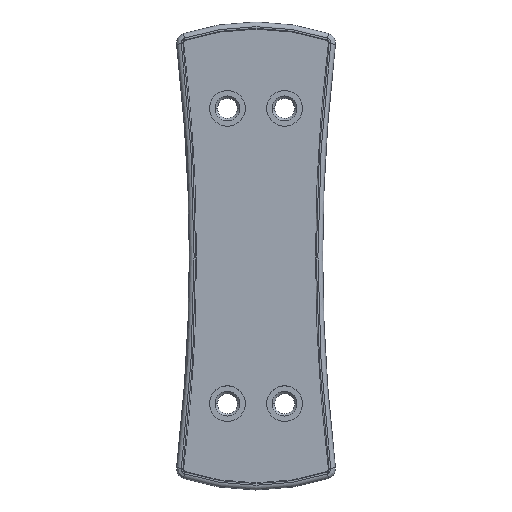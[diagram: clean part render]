
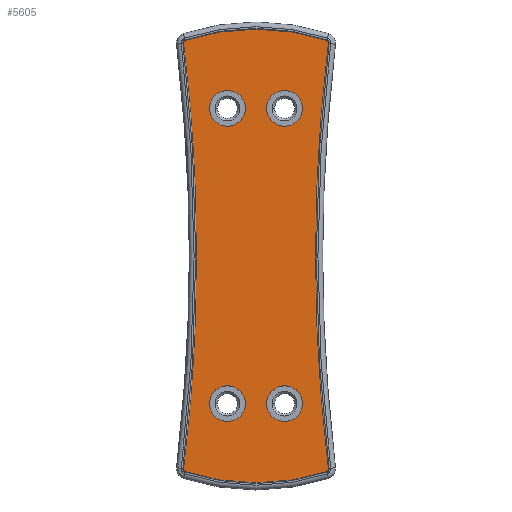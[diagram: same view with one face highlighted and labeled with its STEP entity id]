
A CAD part, top view. The second image highlights one B-rep face of the part: STEP entity #5605.
In plain terms, the highlighted planar face has unit normal (0, 0, 1).
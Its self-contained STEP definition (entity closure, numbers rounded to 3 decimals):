
#1633=CARTESIAN_POINT('',(0.,0.,97.5));
#1634=DIRECTION('',(0.,0.,-1.));
#1635=DIRECTION('',(0.312,-0.95,0.));
#1636=AXIS2_PLACEMENT_3D('',#1633,#1634,#1635);
#1638=CARTESIAN_POINT('',(-14.837,-45.253,97.5));
#1639=CARTESIAN_POINT('',(-14.86,-45.245,97.5));
#1640=CARTESIAN_POINT('',(-14.922,-45.219,97.5));
#1641=CARTESIAN_POINT('',(-15.017,-45.149,97.5));
#1642=CARTESIAN_POINT('',(-15.11,-45.027,97.5));
#1643=CARTESIAN_POINT('',(-15.174,-44.87,97.5));
#1644=CARTESIAN_POINT('',(-15.192,-44.723,97.5));
#1645=CARTESIAN_POINT('',(-15.186,-44.635,97.5));
#1646=CARTESIAN_POINT('',(-15.183,-44.607,97.5));
#1648=CARTESIAN_POINT('',(-384.682,0.,97.5));
#1649=DIRECTION('',(0.,0.,1.));
#1650=DIRECTION('',(0.993,-0.12,0.));
#1651=AXIS2_PLACEMENT_3D('',#1648,#1649,#1650);
#1653=CARTESIAN_POINT('',(-384.682,0.,97.5));
#1654=DIRECTION('',(0.,0.,1.));
#1655=DIRECTION('',(1.,0.,0.));
#1656=AXIS2_PLACEMENT_3D('',#1653,#1654,#1655);
#1658=CARTESIAN_POINT('',(-15.183,44.607,97.5));
#1659=CARTESIAN_POINT('',(-15.186,44.635,97.5));
#1660=CARTESIAN_POINT('',(-15.192,44.723,97.5));
#1661=CARTESIAN_POINT('',(-15.174,44.87,97.5));
#1662=CARTESIAN_POINT('',(-15.11,45.027,97.5));
#1663=CARTESIAN_POINT('',(-15.017,45.149,97.5));
#1664=CARTESIAN_POINT('',(-14.922,45.219,97.5));
#1665=CARTESIAN_POINT('',(-14.86,45.245,97.5));
#1666=CARTESIAN_POINT('',(-14.837,45.253,97.5));
#1668=CARTESIAN_POINT('',(0.,0.,97.5));
#1669=DIRECTION('',(0.,0.,-1.));
#1670=DIRECTION('',(-0.312,0.95,0.));
#1671=AXIS2_PLACEMENT_3D('',#1668,#1669,#1670);
#1673=CARTESIAN_POINT('',(14.837,45.253,97.5));
#1674=CARTESIAN_POINT('',(14.86,45.245,97.5));
#1675=CARTESIAN_POINT('',(14.922,45.219,97.5));
#1676=CARTESIAN_POINT('',(15.017,45.149,97.5));
#1677=CARTESIAN_POINT('',(15.11,45.027,97.5));
#1678=CARTESIAN_POINT('',(15.174,44.87,97.5));
#1679=CARTESIAN_POINT('',(15.192,44.723,97.5));
#1680=CARTESIAN_POINT('',(15.186,44.635,97.5));
#1681=CARTESIAN_POINT('',(15.183,44.607,97.5));
#1683=CARTESIAN_POINT('',(384.682,0.,97.5));
#1684=DIRECTION('',(0.,0.,1.));
#1685=DIRECTION('',(-0.993,0.12,0.));
#1686=AXIS2_PLACEMENT_3D('',#1683,#1684,#1685);
#1688=CARTESIAN_POINT('',(384.682,0.,97.5));
#1689=DIRECTION('',(0.,0.,1.));
#1690=DIRECTION('',(-1.,0.,0.));
#1691=AXIS2_PLACEMENT_3D('',#1688,#1689,#1690);
#1693=CARTESIAN_POINT('',(15.183,-44.607,97.5));
#1694=CARTESIAN_POINT('',(15.186,-44.635,97.5));
#1695=CARTESIAN_POINT('',(15.192,-44.723,97.5));
#1696=CARTESIAN_POINT('',(15.174,-44.87,97.5));
#1697=CARTESIAN_POINT('',(15.11,-45.027,97.5));
#1698=CARTESIAN_POINT('',(15.017,-45.149,97.5));
#1699=CARTESIAN_POINT('',(14.922,-45.219,97.5));
#1700=CARTESIAN_POINT('',(14.86,-45.245,97.5));
#1701=CARTESIAN_POINT('',(14.837,-45.253,97.5));
#1703=CARTESIAN_POINT('',(-6.,31.,97.5));
#1704=DIRECTION('',(0.,0.,1.));
#1705=DIRECTION('',(1.,0.,0.));
#1706=AXIS2_PLACEMENT_3D('',#1703,#1704,#1705);
#1708=CARTESIAN_POINT('',(-6.,31.,97.5));
#1709=DIRECTION('',(0.,0.,1.));
#1710=DIRECTION('',(-1.,0.,0.));
#1711=AXIS2_PLACEMENT_3D('',#1708,#1709,#1710);
#1713=CARTESIAN_POINT('',(6.,31.,97.5));
#1714=DIRECTION('',(0.,0.,1.));
#1715=DIRECTION('',(1.,0.,0.));
#1716=AXIS2_PLACEMENT_3D('',#1713,#1714,#1715);
#1718=CARTESIAN_POINT('',(6.,31.,97.5));
#1719=DIRECTION('',(0.,0.,1.));
#1720=DIRECTION('',(-1.,0.,0.));
#1721=AXIS2_PLACEMENT_3D('',#1718,#1719,#1720);
#1723=CARTESIAN_POINT('',(6.,-31.,97.5));
#1724=DIRECTION('',(0.,0.,1.));
#1725=DIRECTION('',(1.,0.,0.));
#1726=AXIS2_PLACEMENT_3D('',#1723,#1724,#1725);
#1728=CARTESIAN_POINT('',(6.,-31.,97.5));
#1729=DIRECTION('',(0.,0.,1.));
#1730=DIRECTION('',(-1.,0.,0.));
#1731=AXIS2_PLACEMENT_3D('',#1728,#1729,#1730);
#1733=CARTESIAN_POINT('',(-6.,-31.,97.5));
#1734=DIRECTION('',(0.,0.,1.));
#1735=DIRECTION('',(1.,0.,0.));
#1736=AXIS2_PLACEMENT_3D('',#1733,#1734,#1735);
#1738=CARTESIAN_POINT('',(-6.,-31.,97.5));
#1739=DIRECTION('',(0.,0.,1.));
#1740=DIRECTION('',(-1.,0.,0.));
#1741=AXIS2_PLACEMENT_3D('',#1738,#1739,#1740);
#2339=CARTESIAN_POINT('',(9.75,31.,97.5));
#2340=CARTESIAN_POINT('',(2.25,31.,97.5));
#2341=VERTEX_POINT('',#2339);
#2342=VERTEX_POINT('',#2340);
#2343=CARTESIAN_POINT('',(14.837,-45.253,97.5));
#2344=CARTESIAN_POINT('',(-14.837,-45.253,97.5));
#2345=VERTEX_POINT('',#2343);
#2346=VERTEX_POINT('',#2344);
#2347=VERTEX_POINT('',#1646);
#2348=CARTESIAN_POINT('',(-12.5,0.,97.5));
#2349=VERTEX_POINT('',#2348);
#2350=CARTESIAN_POINT('',(-15.183,44.607,97.5));
#2351=VERTEX_POINT('',#2350);
#2352=VERTEX_POINT('',#1666);
#2353=CARTESIAN_POINT('',(14.837,45.253,97.5));
#2354=VERTEX_POINT('',#2353);
#2355=VERTEX_POINT('',#1681);
#2356=CARTESIAN_POINT('',(12.5,0.,97.5));
#2357=VERTEX_POINT('',#2356);
#2358=CARTESIAN_POINT('',(15.183,-44.607,97.5));
#2359=VERTEX_POINT('',#2358);
#2360=CARTESIAN_POINT('',(-2.25,31.,97.5));
#2361=CARTESIAN_POINT('',(-9.75,31.,97.5));
#2362=VERTEX_POINT('',#2360);
#2363=VERTEX_POINT('',#2361);
#2364=CARTESIAN_POINT('',(9.75,-31.,97.5));
#2365=CARTESIAN_POINT('',(2.25,-31.,97.5));
#2366=VERTEX_POINT('',#2364);
#2367=VERTEX_POINT('',#2365);
#2368=CARTESIAN_POINT('',(-2.25,-31.,97.5));
#2369=CARTESIAN_POINT('',(-9.75,-31.,97.5));
#2370=VERTEX_POINT('',#2368);
#2371=VERTEX_POINT('',#2369);
#5555=CARTESIAN_POINT('',(0.,0.,97.5));
#5556=DIRECTION('',(0.,0.,1.));
#5557=DIRECTION('',(1.,0.,0.));
#5558=AXIS2_PLACEMENT_3D('',#5555,#5556,#5557);
#5559=PLANE('',#5558);
#5561=ORIENTED_EDGE('',*,*,#5560,.T.);
#5563=ORIENTED_EDGE('',*,*,#5562,.T.);
#5565=ORIENTED_EDGE('',*,*,#5564,.T.);
#5567=ORIENTED_EDGE('',*,*,#5566,.T.);
#5569=ORIENTED_EDGE('',*,*,#5568,.T.);
#5571=ORIENTED_EDGE('',*,*,#5570,.T.);
#5573=ORIENTED_EDGE('',*,*,#5572,.T.);
#5575=ORIENTED_EDGE('',*,*,#5574,.T.);
#5577=ORIENTED_EDGE('',*,*,#5576,.T.);
#5579=ORIENTED_EDGE('',*,*,#5578,.T.);
#5580=EDGE_LOOP('',(#5561,#5563,#5565,#5567,#5569,#5571,#5573,#5575,#5577,
#5579));
#5581=FACE_OUTER_BOUND('',#5580,.F.);
#5583=ORIENTED_EDGE('',*,*,#5582,.T.);
#5585=ORIENTED_EDGE('',*,*,#5584,.T.);
#5586=EDGE_LOOP('',(#5583,#5585));
#5587=FACE_BOUND('',#5586,.F.);
#5588=ORIENTED_EDGE('',*,*,#5545,.T.);
#5590=ORIENTED_EDGE('',*,*,#5589,.T.);
#5591=EDGE_LOOP('',(#5588,#5590));
#5592=FACE_BOUND('',#5591,.F.);
#5594=ORIENTED_EDGE('',*,*,#5593,.T.);
#5596=ORIENTED_EDGE('',*,*,#5595,.T.);
#5597=EDGE_LOOP('',(#5594,#5596));
#5598=FACE_BOUND('',#5597,.F.);
#5600=ORIENTED_EDGE('',*,*,#5599,.T.);
#5602=ORIENTED_EDGE('',*,*,#5601,.T.);
#5603=EDGE_LOOP('',(#5600,#5602));
#5604=FACE_BOUND('',#5603,.F.);
#5605=ADVANCED_FACE('',(#5581,#5587,#5592,#5598,#5604),#5559,.T.);
#1637=CIRCLE('',#1636,47.623);
#1647=B_SPLINE_CURVE_WITH_KNOTS('',3,(#1638,#1639,#1640,#1641,#1642,#1643,#1644,
#1645,#1646),.UNSPECIFIED.,.F.,.F.,(4,1,1,1,1,1,4),(0.,0.111,
0.304,0.501,0.702,0.907,1.),
.UNSPECIFIED.);
#1652=CIRCLE('',#1651,372.182);
#1657=CIRCLE('',#1656,372.182);
#1667=B_SPLINE_CURVE_WITH_KNOTS('',3,(#1658,#1659,#1660,#1661,#1662,#1663,#1664,
#1665,#1666),.UNSPECIFIED.,.F.,.F.,(4,1,1,1,1,1,4),(0.,0.093,
0.298,0.499,0.696,0.889,1.),
.UNSPECIFIED.);
#1672=CIRCLE('',#1671,47.623);
#1682=B_SPLINE_CURVE_WITH_KNOTS('',3,(#1673,#1674,#1675,#1676,#1677,#1678,#1679,
#1680,#1681),.UNSPECIFIED.,.F.,.F.,(4,1,1,1,1,1,4),(0.,0.111,
0.304,0.501,0.702,0.907,1.),
.UNSPECIFIED.);
#1687=CIRCLE('',#1686,372.182);
#1692=CIRCLE('',#1691,372.182);
#1702=B_SPLINE_CURVE_WITH_KNOTS('',3,(#1693,#1694,#1695,#1696,#1697,#1698,#1699,
#1700,#1701),.UNSPECIFIED.,.F.,.F.,(4,1,1,1,1,1,4),(0.,0.093,
0.298,0.499,0.696,0.889,1.),
.UNSPECIFIED.);
#1707=CIRCLE('',#1706,3.75);
#1712=CIRCLE('',#1711,3.75);
#1717=CIRCLE('',#1716,3.75);
#1722=CIRCLE('',#1721,3.75);
#1727=CIRCLE('',#1726,3.75);
#1732=CIRCLE('',#1731,3.75);
#1737=CIRCLE('',#1736,3.75);
#1742=CIRCLE('',#1741,3.75);
#5545=EDGE_CURVE('',#2341,#2342,#1717,.T.);
#5560=EDGE_CURVE('',#2345,#2346,#1637,.T.);
#5562=EDGE_CURVE('',#2346,#2347,#1647,.T.);
#5564=EDGE_CURVE('',#2347,#2349,#1652,.T.);
#5566=EDGE_CURVE('',#2349,#2351,#1657,.T.);
#5568=EDGE_CURVE('',#2351,#2352,#1667,.T.);
#5570=EDGE_CURVE('',#2352,#2354,#1672,.T.);
#5572=EDGE_CURVE('',#2354,#2355,#1682,.T.);
#5574=EDGE_CURVE('',#2355,#2357,#1687,.T.);
#5576=EDGE_CURVE('',#2357,#2359,#1692,.T.);
#5578=EDGE_CURVE('',#2359,#2345,#1702,.T.);
#5582=EDGE_CURVE('',#2362,#2363,#1707,.T.);
#5584=EDGE_CURVE('',#2363,#2362,#1712,.T.);
#5589=EDGE_CURVE('',#2342,#2341,#1722,.T.);
#5593=EDGE_CURVE('',#2366,#2367,#1727,.T.);
#5595=EDGE_CURVE('',#2367,#2366,#1732,.T.);
#5599=EDGE_CURVE('',#2370,#2371,#1737,.T.);
#5601=EDGE_CURVE('',#2371,#2370,#1742,.T.);
